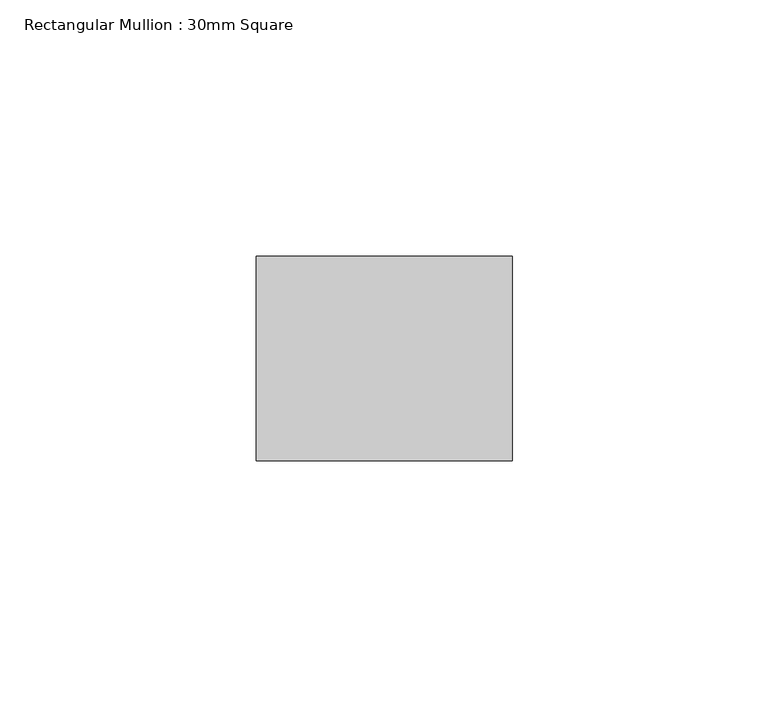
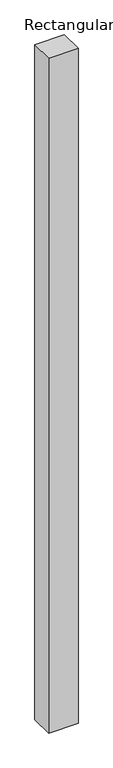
"""IFC4 building model written with IfcOpenShell, lengths in millimetres: member geometry, Rectangular Mullion : 30mm Square."""

import ifcopenshell
import ifcopenshell.guid

model = None  # the IFC model being written
_history = None  # IfcOwnerHistory: only IFC2X3 demands one
_inside = {}  # id of a spatial element -> (the spatial element, [elements in it])
_under = {}  # id of a project, library or spatial element -> (it, [spatial elements below it])
_declared = {}  # id of a project -> (the project, [libraries it declares])
_typed = {}  # id of a type object -> (the type object, [elements of that type])
_made_of = {}  # id of a material, layer set ... -> (it, [elements and type objects made of it])


def new_model(schema):
    """Start an empty IFC model of exactly this schema.

    Asked for "IFC4X3", IfcOpenShell would pick the latest addendum, in which some entities
    have other attributes; the version numbers below select the first issue.
    IFC2X3 requires an IfcOwnerHistory on every rooted entity: one is made here for all.
    """
    global model, _history
    if schema == "IFC4X3":
        model = ifcopenshell.file(schema_version=(4, 3, 0, 0))
    else:
        model = ifcopenshell.file(schema=schema)
    _inside.clear()
    _under.clear()
    _declared.clear()
    _typed.clear()
    _made_of.clear()
    _history = None
    if model.schema == "IFC2X3":
        org = make("IfcOrganization", Name="unknown")
        user = make(
            "IfcPersonAndOrganization",
            ThePerson=make("IfcPerson", FamilyName="unknown"),
            TheOrganization=org,
        )
        app = make(
            "IfcApplication",
            ApplicationDeveloper=org,
            Version="unknown",
            ApplicationFullName="unknown",
            ApplicationIdentifier="unknown",
        )
        _history = make(
            "IfcOwnerHistory",
            OwningUser=user,
            OwningApplication=app,
            ChangeAction="ADDED",
            CreationDate=0,
        )
    return model


def make(cls, **values):
    """One entity of the class cls with the attributes given. An attribute that is None is left unset."""
    return model.create_entity(
        cls, **{name: value for name, value in values.items() if value is not None}
    )


def rooted(cls, **values):
    """An entity with a GlobalId (a new one), such as an element, a storey or a relation."""
    return make(cls, GlobalId=ifcopenshell.guid.new(), OwnerHistory=_history, **values)


def si_unit(unit_type, name, prefix=None):
    """IfcSIUnit, for example si_unit("LENGTHUNIT", "METRE", prefix="MILLI")."""
    return make("IfcSIUnit", UnitType=unit_type, Prefix=prefix, Name=name)


def assignment(units):
    """IfcUnitAssignment: the units of a project."""
    return None if units is None else make("IfcUnitAssignment", Units=units)


def point(xyz):
    """IfcCartesianPoint."""
    return None if xyz is None else make("IfcCartesianPoint", Coordinates=xyz)


def direction(xyz):
    """IfcDirection."""
    return None if xyz is None else make("IfcDirection", DirectionRatios=xyz)


def frame(location, z_axis=None, x_axis=None):
    """IfcAxis2Placement3D, a coordinate frame: its origin and axes. An axis left out is left unset."""
    return make(
        "IfcAxis2Placement3D",
        Location=point(location),
        Axis=direction(z_axis),
        RefDirection=direction(x_axis),
    )


def origin():
    """The frame at (0, 0, 0) with its axes left unset."""
    return frame((0.0, 0.0, 0.0))


def place(relative_to, where):
    """IfcLocalPlacement: puts the frame where relative to a parent placement (None: the world)."""
    return make(
        "IfcLocalPlacement", PlacementRelTo=relative_to, RelativePlacement=where
    )


def context(
    kind, dimensions, precision=None, world=None, true_north=None, identifier=None
):
    """IfcGeometricRepresentationContext, for example the 3D "Model" context."""
    return make(
        "IfcGeometricRepresentationContext",
        ContextIdentifier=identifier,
        ContextType=kind,
        CoordinateSpaceDimension=dimensions,
        Precision=precision,
        WorldCoordinateSystem=world,
        TrueNorth=true_north,
    )


def project(units=None, contexts=None):
    """IfcProject with its units and contexts."""
    return rooted(
        "IfcProject",
        Name="project",
        RepresentationContexts=contexts,
        UnitsInContext=assignment(units),
    )


def spatial(cls, under=None, at=None, **own):
    """A site, building, storey or space (cls), placed at a placement, below another one or the project."""
    s = rooted(cls, ObjectPlacement=at, **own)
    if under is not None:
        _under.setdefault(under.id(), (under, []))[1].append(s)
    return s


def polyline(points):
    """IfcPolyline through the points."""
    return make("IfcPolyline", Points=[point(p) for p in points])


def outline(outer, holes=None, kind="AREA"):
    """IfcArbitraryClosedProfileDef: a profile drawn as a closed curve; with holes, ...WithVoids."""
    if holes is None:
        return make("IfcArbitraryClosedProfileDef", ProfileType=kind, OuterCurve=outer)
    return make(
        "IfcArbitraryProfileDefWithVoids",
        ProfileType=kind,
        OuterCurve=outer,
        InnerCurves=holes,
    )


def extrude(swept, where, along, depth):
    """IfcExtrudedAreaSolid: the profile swept, set in the frame where, extruded along a direction by depth."""
    return make(
        "IfcExtrudedAreaSolid",
        SweptArea=swept,
        Position=where,
        ExtrudedDirection=direction(along),
        Depth=depth,
    )


def shape(context_of_items, identifier, shape_type, items):
    """IfcShapeRepresentation: the items that make up one representation, for example the "Body"."""
    return make(
        "IfcShapeRepresentation",
        ContextOfItems=context_of_items,
        RepresentationIdentifier=identifier,
        RepresentationType=shape_type,
        Items=items,
    )


def source(mapping_origin, context_of_items, identifier, shape_type, items):
    """IfcRepresentationMap: a shape defined once, which mapped items show again and again."""
    return make(
        "IfcRepresentationMap",
        MappingOrigin=mapping_origin,
        MappedRepresentation=shape(context_of_items, identifier, shape_type, items),
    )


def transform(
    local_origin,
    x_axis=None,
    y_axis=None,
    z_axis=None,
    scale=None,
    scale2=None,
    scale3=None,
    uniform=True,
):
    """IfcCartesianTransformationOperator3D, or its non-uniform kind. x_axis, y_axis, z_axis: its Axis1, 2, 3."""
    if uniform:
        return make(
            "IfcCartesianTransformationOperator3D",
            Axis1=direction(x_axis),
            Axis2=direction(y_axis),
            LocalOrigin=point(local_origin),
            Scale=scale,
            Axis3=direction(z_axis),
        )
    return make(
        "IfcCartesianTransformationOperator3DnonUniform",
        Axis1=direction(x_axis),
        Axis2=direction(y_axis),
        LocalOrigin=point(local_origin),
        Scale=scale,
        Axis3=direction(z_axis),
        Scale2=scale2,
        Scale3=scale3,
    )


def mapped(mapping_source, mapping_target):
    """IfcMappedItem: shows the shape of a source again, moved by a transform."""
    return make(
        "IfcMappedItem", MappingSource=mapping_source, MappingTarget=mapping_target
    )


def made_of(thing, what):
    """Note that an element or type object is made of a material, layer set ...; save() writes the relation."""
    if what is not None:
        _made_of.setdefault(what.id(), (what, []))[1].append(thing)
    return thing


def element(
    cls,
    number,
    at=None,
    inside=None,
    cuts=None,
    type_object=None,
    material=None,
    context=None,
    identifier="Body",
    shape_type=None,
    held_by="IfcProductDefinitionShape",
    body=None,
    shapes=None,
    **own,
):
    """One element of the class cls, such as IfcWall. Its Tag is "e" and its number.

    at: its placement. inside: the storey or other place that contains it. cuts: it is an
    opening in that element (IfcRelVoidsElement). A single representation is given by context,
    identifier, shape_type and body (its items); several are given by shapes. held_by: the class
    of the entity that holds the representations. save() writes the other relations.
    """
    e = rooted(cls, Tag="e%d" % number, ObjectPlacement=at, **own)
    if body is not None:
        shapes = [shape(context, identifier, shape_type, body)]
    if shapes is not None:
        e.Representation = make(held_by, Representations=shapes)
    if inside is not None:
        _inside.setdefault(inside.id(), (inside, []))[1].append(e)
    if cuts is not None:
        rooted(
            "IfcRelVoidsElement", RelatingBuildingElement=cuts, RelatedOpeningElement=e
        )
    if type_object is not None:
        _typed.setdefault(type_object.id(), (type_object, []))[1].append(e)
    return made_of(e, material)


def aggregate(whole, parts):
    """IfcRelAggregates: a whole, such as a stair, and the parts it consists of."""
    return rooted("IfcRelAggregates", RelatingObject=whole, RelatedObjects=parts)


def save(model, path):
    """Write the relations noted so far, then the file.

    IfcRelAggregates (storeys below a building ...), IfcRelContainedInSpatialStructure (elements
    in a storey), IfcRelDefinesByType, IfcRelAssociatesMaterial and IfcRelDeclares: one each for
    every whole, place, type object, material and project.
    """
    for whole, parts in _under.values():
        aggregate(whole, parts)
    for where, things in _inside.values():
        rooted(
            "IfcRelContainedInSpatialStructure",
            RelatedElements=things,
            RelatingStructure=where,
        )
    for kind, things in _typed.values():
        rooted("IfcRelDefinesByType", RelatedObjects=things, RelatingType=kind)
    for what, things in _made_of.values():
        rooted("IfcRelAssociatesMaterial", RelatedObjects=things, RelatingMaterial=what)
    for by, libraries in _declared.values():
        rooted("IfcRelDeclares", RelatingContext=by, RelatedDefinitions=libraries)
    model.write(path)


def rectangular_mullion_30mm_square_3b6dfc52(model_context):
    return source(origin(), model_context, "Body", "SweptSolid", [
        extrude(outline(polyline([(25.0, 20.0), (25.0, -20.0), (-25.0, -20.0), (-25.0, 20.0), (25.0, 20.0)])), frame((0.0, 0.0, -1210.0), z_axis=(0.0, 0.0, 1.0), x_axis=(1.0, 0.0, 0.0)), (0.0, 0.0, 1.0), 1210.0),
    ])


if __name__ == "__main__":
    model = new_model("IFC4")
    model_context = context("Model", 3, world=origin())
    ifc_project = project(units=[si_unit("LENGTHUNIT", "METRE", prefix="MILLI")], contexts=[model_context])
    site = spatial("IfcSite", under=ifc_project)
    building = spatial("IfcBuilding", under=site)
    placement = place(None, origin())
    rectangular_mullion_30mm_square_shape = rectangular_mullion_30mm_square_3b6dfc52(model_context)
    element("IfcMember", 1, ObjectType="Rectangular Mullion : 30mm Square", at=placement, inside=building, context=model_context, shape_type="MappedRepresentation", body=[
        mapped(rectangular_mullion_30mm_square_shape, transform((0.0, 0.0, 0.0), x_axis=(1.0, 0.0, 0.0), y_axis=(0.0, 1.0, 0.0), z_axis=(0.0, 0.0, 1.0))),
    ])
    save(model, "model.ifc")
